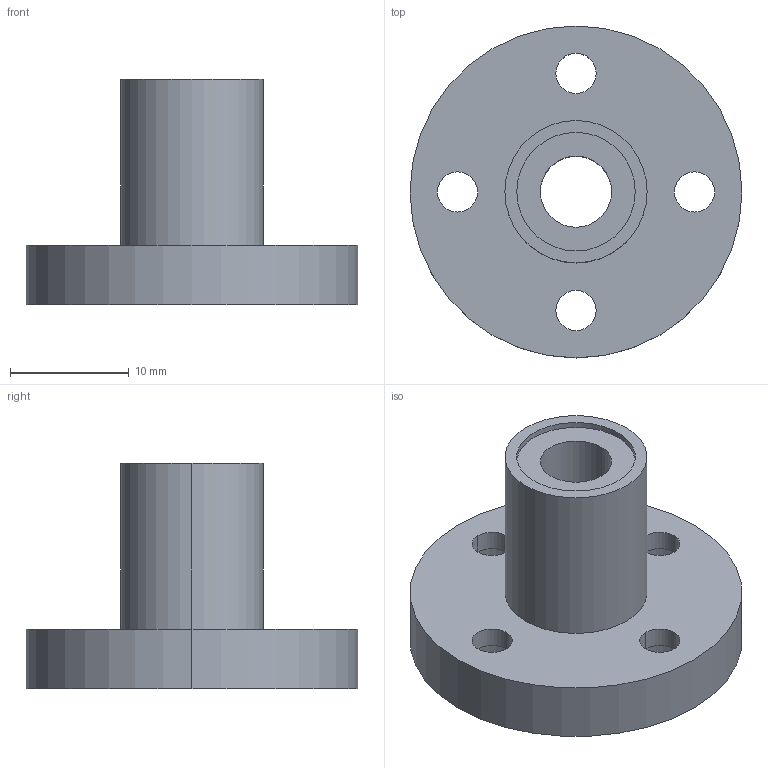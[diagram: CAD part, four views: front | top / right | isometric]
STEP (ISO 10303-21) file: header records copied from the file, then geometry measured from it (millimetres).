
FILE_DESCRIPTION((''),'2;1');
FILE_NAME('C:\Documents and Settings\ｿﾀﾀ蠑ｷ1\ｹﾙﾅﾁ ﾈｭｸ饅\ｺﾎﾇｰﾆﾄﾀﾏ\ﾁｦﾇｰ\LMF__UU\LMF6UU.stp','2005-06-15T09:34:49',('ｿﾀﾀ蠑ｷ1'),(''),'Autodesk Inventor 9','Autodesk Inventor 9','');
FILE_SCHEMA(('AUTOMOTIVE_DESIGN { 1 0 10303 214 1 1 1 1 }'));
Length unit declared in the file: millimetre
Products named in the file (1): LMF__
Bounding box: 28 x 28 x 19 mm (x, y, z)
Volume: 3559.5 mm3; surface area: 2786 mm2
Topology: 1 solids, 1 shells, 38 faces, 84 edges, 56 vertices
Faces by surface type: cylinder 28, plane 10
Entity records: 1127 total; most frequent: DIRECTION 218, CARTESIAN_POINT 179, ORIENTED_EDGE 168, AXIS2_PLACEMENT_3D 95, EDGE_CURVE 84, VERTEX_POINT 56, CIRCLE 56, EDGE_LOOP 56
